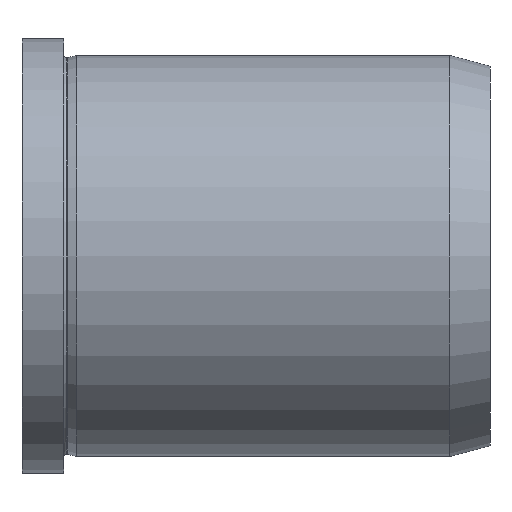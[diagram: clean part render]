
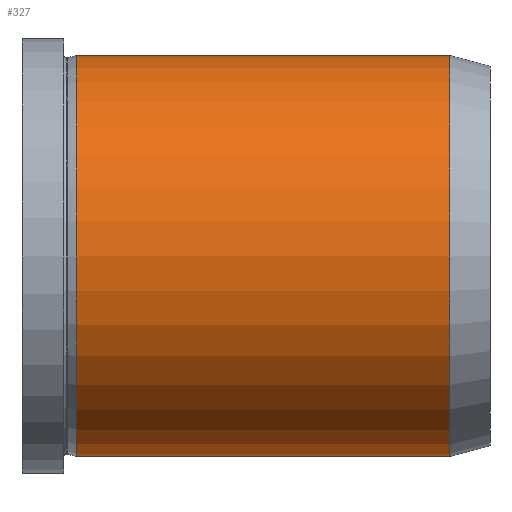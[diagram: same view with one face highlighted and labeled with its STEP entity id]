
A CAD part, left-side view. The second image highlights one B-rep face of the part: STEP entity #327.
In plain terms, the highlighted cylindrical face has radius 24 mm (diameter 48 mm), a partial arc.
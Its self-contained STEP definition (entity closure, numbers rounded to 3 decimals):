
#4 = LINE ( 'NONE', #406, #7 ) ;
#7 = VECTOR ( 'NONE', #410, 1000. ) ;
#17 = FACE_OUTER_BOUND ( 'NONE', #453, .T. ) ;
#34 = CARTESIAN_POINT ( 'NONE',  ( 0., 49.478, 0. ) ) ;
#37 = CARTESIAN_POINT ( 'NONE',  ( 0., 49.478, -24. ) ) ;
#80 = CIRCLE ( 'NONE', #122, 24. ) ;
#104 = ORIENTED_EDGE ( 'NONE', *, *, #276, .F. ) ;
#107 = VECTOR ( 'NONE', #180, 1000. ) ;
#112 = EDGE_CURVE ( 'NONE', #443, #612, #275, .T. ) ;
#121 = EDGE_CURVE ( 'NONE', #443, #448, #423, .T. ) ;
#122 = AXIS2_PLACEMENT_3D ( 'NONE', #169, #579, #125 ) ;
#125 = DIRECTION ( 'NONE',  ( 0., 0., -1. ) ) ;
#133 = CARTESIAN_POINT ( 'NONE',  ( 0., 0., 24. ) ) ;
#137 = DIRECTION ( 'NONE',  ( 0., -1., 0. ) ) ;
#147 = DIRECTION ( 'NONE',  ( 0., -1., 0. ) ) ;
#169 = CARTESIAN_POINT ( 'NONE',  ( 0., 4.8, 0. ) ) ;
#180 = DIRECTION ( 'NONE',  ( 0., -1., 0. ) ) ;
#183 = DIRECTION ( 'NONE',  ( 0., 0., -1. ) ) ;
#207 = AXIS2_PLACEMENT_3D ( 'NONE', #34, #137, #273 ) ;
#248 = AXIS2_PLACEMENT_3D ( 'NONE', #434, #147, #183 ) ;
#273 = DIRECTION ( 'NONE',  ( 0., 0., -1. ) ) ;
#275 = LINE ( 'NONE', #133, #107 ) ;
#276 = EDGE_CURVE ( 'NONE', #612, #450, #80, .T. ) ;
#306 = CYLINDRICAL_SURFACE ( 'NONE', #248, 24. ) ;
#327 = ADVANCED_FACE ( 'NONE', ( #17 ), #306, .T. ) ;
#346 = ORIENTED_EDGE ( 'NONE', *, *, #487, .T. ) ;
#377 = CARTESIAN_POINT ( 'NONE',  ( 0., 4.8, 24. ) ) ;
#383 = CARTESIAN_POINT ( 'NONE',  ( 0., 4.8, -24. ) ) ;
#406 = CARTESIAN_POINT ( 'NONE',  ( 0., 0., -24. ) ) ;
#410 = DIRECTION ( 'NONE',  ( 0., -1., 0. ) ) ;
#418 = ORIENTED_EDGE ( 'NONE', *, *, #112, .F. ) ;
#423 = CIRCLE ( 'NONE', #207, 24. ) ;
#434 = CARTESIAN_POINT ( 'NONE',  ( 0., 0., 0. ) ) ;
#443 = VERTEX_POINT ( 'NONE', #657 ) ;
#448 = VERTEX_POINT ( 'NONE', #37 ) ;
#450 = VERTEX_POINT ( 'NONE', #383 ) ;
#453 = EDGE_LOOP ( 'NONE', ( #418, #475, #346, #104 ) ) ;
#475 = ORIENTED_EDGE ( 'NONE', *, *, #121, .T. ) ;
#487 = EDGE_CURVE ( 'NONE', #448, #450, #4, .T. ) ;
#579 = DIRECTION ( 'NONE',  ( 0., -1., 0. ) ) ;
#612 = VERTEX_POINT ( 'NONE', #377 ) ;
#657 = CARTESIAN_POINT ( 'NONE',  ( 0., 49.478, 24. ) ) ;
